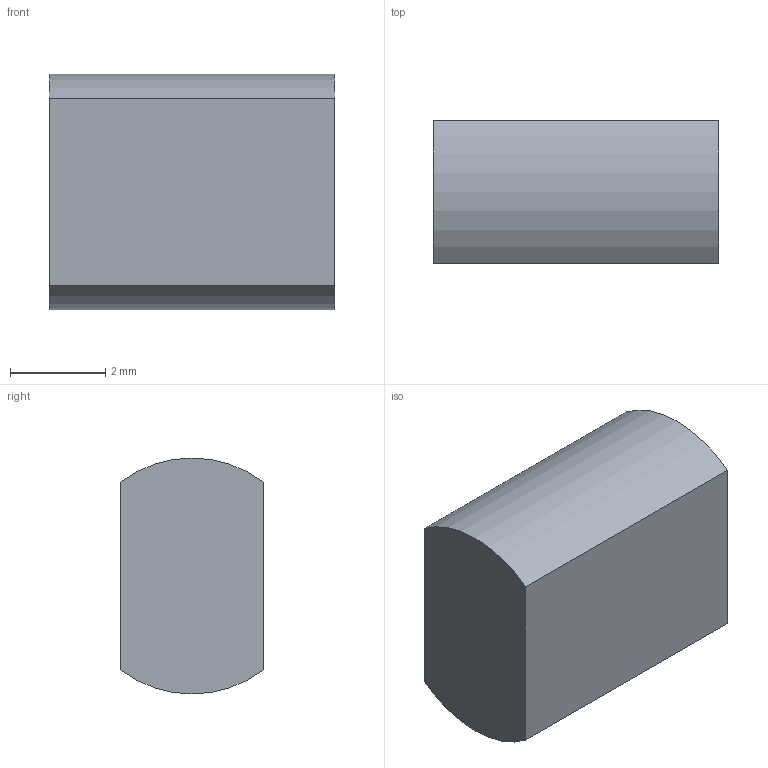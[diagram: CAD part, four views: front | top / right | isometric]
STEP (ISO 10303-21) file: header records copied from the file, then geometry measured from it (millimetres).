
FILE_DESCRIPTION(/* description */ ('STEP AP242 Edition 2','CAx-IF Rec.Pracs.---Representation and Presentation of Product Manufacturing Information (PMI)---4.0---2014-10-13','CAx-IF Rec.Pracs.---3D Tessellated Geometry---0.4---2014-09-14','2;1','CAx-IF Rec.Pracs.---User Defined Attributes---1.5---2016-08-15'),/* implementation_level */ '2;1');
FILE_NAME(/* name */ 'Assembly 1 - motor_shaft',/* time_stamp */ '2026-02-04T12:55:11Z',/* author */ (''),/* organization */ (''),/* preprocessor_version */ 'ST-DEVELOPER v20',/* originating_system */ 'ONSHAPE BY PTC INC, 1.210',/* authorisation */ ' ');
FILE_SCHEMA (('AP242_MANAGED_MODEL_BASED_3D_ENGINEERING_MIM_LF { 1 0 10303 442 3 1 4 }'));
Length unit declared in the file: metre
Products named in the file (1): motor_shaft
Bounding box: 6 x 3 x 4.95 mm (x, y, z)
Volume: 83.3 mm3; surface area: 113.7 mm2
Topology: 1 solids, 1 shells, 6 faces, 12 edges, 8 vertices
Faces by surface type: plane 4, cylinder 2
Entity records: 182 total; most frequent: DIRECTION 30, CARTESIAN_POINT 27, ORIENTED_EDGE 24, EDGE_CURVE 12, AXIS2_PLACEMENT_3D 11, LINE 8, VECTOR 8, VERTEX_POINT 8
